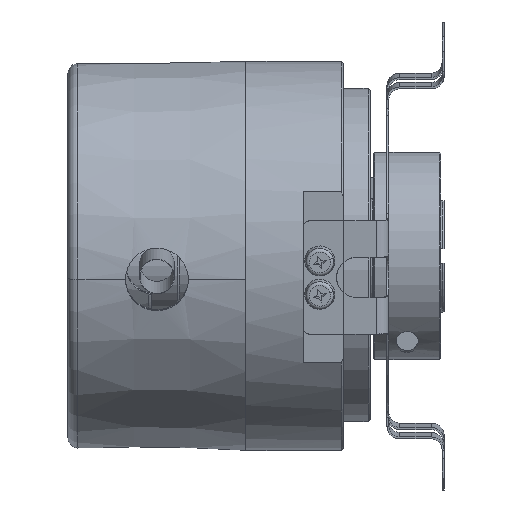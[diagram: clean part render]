
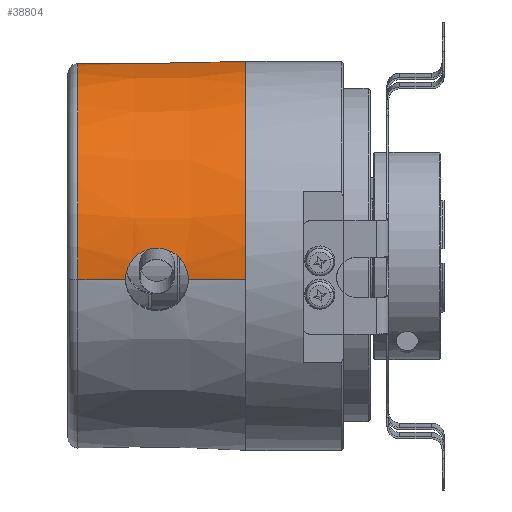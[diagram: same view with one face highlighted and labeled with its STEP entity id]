
A CAD part, front view. The second image highlights one B-rep face of the part: STEP entity #38804.
In plain terms, the highlighted conical face has half-angle 0.75 degrees and reference radius 29 mm.
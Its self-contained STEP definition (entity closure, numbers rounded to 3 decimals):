
#3315 = CARTESIAN_POINT ( 'NONE',  ( 7.5, 22.36, 18.467 ) ) ;
#7344 = VERTEX_POINT ( 'NONE', #3315 ) ;
#11219 = CARTESIAN_POINT ( 'NONE',  ( 7.5, 0., 0. ) ) ;
#11220 = DIRECTION ( 'NONE',  ( 1., 0., 0. ) ) ;
#11221 = DIRECTION ( 'NONE',  ( 0., -0.993, -0.122 ) ) ;
#13774 = LINE ( 'NONE', #13775, #36014 ) ;
#13775 = CARTESIAN_POINT ( 'NONE',  ( 7.5, -28.784, -3.534 ) ) ;
#13776 = DIRECTION ( 'NONE',  ( 1., -0.013, -0.002 ) ) ;
#13907 = CARTESIAN_POINT ( 'NONE',  ( -17.52, 0., 0. ) ) ;
#13911 = DIRECTION ( 'NONE',  ( 1., 0., 0. ) ) ;
#13912 = DIRECTION ( 'NONE',  ( 0., 0.993, 0.122 ) ) ;
#13937 = CARTESIAN_POINT ( 'NONE',  ( 7.5, 0., 0. ) ) ;
#13938 = DIRECTION ( 'NONE',  ( -1., 0., 0. ) ) ;
#13939 = DIRECTION ( 'NONE',  ( 0., 0.993, 0.122 ) ) ;
#13940 = CARTESIAN_POINT ( 'NONE',  ( 7.5, 22.36, 18.467 ) ) ;
#13947 = CARTESIAN_POINT ( 'NONE',  ( 6.5, 22.343, 18.468 ) ) ;
#13948 = CARTESIAN_POINT ( 'NONE',  ( 5.5, 22.325, 18.468 ) ) ;
#13949 = CARTESIAN_POINT ( 'NONE',  ( 4.5, 22.308, 18.469 ) ) ;
#13950 = CARTESIAN_POINT ( 'NONE',  ( 0.501, 22.238, 18.47 ) ) ;
#13951 = CARTESIAN_POINT ( 'NONE',  ( -3.498, 22.169, 18.472 ) ) ;
#13952 = CARTESIAN_POINT ( 'NONE',  ( -7.498, 22.099, 18.474 ) ) ;
#13953 = CARTESIAN_POINT ( 'NONE',  ( -10.838, 22.04, 18.476 ) ) ;
#13954 = CARTESIAN_POINT ( 'NONE',  ( -14.179, 21.982, 18.477 ) ) ;
#13955 = CARTESIAN_POINT ( 'NONE',  ( -17.52, 21.923, 18.479 ) ) ;
#13974 = CARTESIAN_POINT ( 'NONE',  ( -5.75, -28.802, 1.18 ) ) ;
#13975 = CARTESIAN_POINT ( 'NONE',  ( -5.443, -28.806, 1.179 ) ) ;
#13976 = CARTESIAN_POINT ( 'NONE',  ( -5.139, -28.812, 1.148 ) ) ;
#13977 = CARTESIAN_POINT ( 'NONE',  ( -4.537, -28.824, 1.026 ) ) ;
#13978 = CARTESIAN_POINT ( 'NONE',  ( -4.239, -28.831, 0.934 ) ) ;
#13979 = CARTESIAN_POINT ( 'NONE',  ( -3.675, -28.846, 0.697 ) ) ;
#13980 = CARTESIAN_POINT ( 'NONE',  ( -3.405, -28.853, 0.551 ) ) ;
#13981 = CARTESIAN_POINT ( 'NONE',  ( -2.892, -28.864, 0.204 ) ) ;
#13982 = CARTESIAN_POINT ( 'NONE',  ( -2.656, -28.868, 0.008 ) ) ;
#13983 = CARTESIAN_POINT ( 'NONE',  ( -2.225, -28.87, -0.426 ) ) ;
#13984 = CARTESIAN_POINT ( 'NONE',  ( -2.028, -28.869, -0.668 ) ) ;
#13985 = CARTESIAN_POINT ( 'NONE',  ( -1.688, -28.857, -1.18 ) ) ;
#13986 = CARTESIAN_POINT ( 'NONE',  ( -1.544, -28.847, -1.449 ) ) ;
#13987 = CARTESIAN_POINT ( 'NONE',  ( -1.309, -28.816, -2.015 ) ) ;
#13988 = CARTESIAN_POINT ( 'NONE',  ( -1.219, -28.795, -2.313 ) ) ;
#13989 = CARTESIAN_POINT ( 'NONE',  ( -1.099, -28.742, -2.912 ) ) ;
#13990 = CARTESIAN_POINT ( 'NONE',  ( -1.069, -28.71, -3.214 ) ) ;
#13991 = CARTESIAN_POINT ( 'NONE',  ( -1.069, -28.672, -3.521 ) ) ;
#14371 = LINE ( 'NONE', #14372, #36177 ) ;
#14372 = CARTESIAN_POINT ( 'NONE',  ( 7.5, -28.784, -3.534 ) ) ;
#14373 = DIRECTION ( 'NONE',  ( 1., -0.013, -0.002 ) ) ;
#14422 = CARTESIAN_POINT ( 'NONE',  ( -17.52, -28.459, -3.494 ) ) ;
#16927 = B_SPLINE_CURVE_WITH_KNOTS ( 'NONE', 3,
 ( #21000, #21001, #21002, #21003, #21004, #21005, #21006, #21007, #21008, #21009, #21010, #21011, #21012, #21013, #21014, #21015, #21016, #21017 ),
 .UNSPECIFIED., .F., .F.,
 ( 4, 2, 2, 2, 2, 2, 2, 2, 4 ),
 ( 0.004, 0.005, 0.006, 0.007, 0.008, 0.009, 0.01, 0.01, 0.011 ),
 .UNSPECIFIED. ) ;
#18678 = FACE_OUTER_BOUND ( 'NONE', #38139, .T. ) ;
#18681 = AXIS2_PLACEMENT_3D ( 'NONE', #11219, #11220, #11221 ) ;
#21000 = CARTESIAN_POINT ( 'NONE',  ( -10.431, -28.551, -3.506 ) ) ;
#21001 = CARTESIAN_POINT ( 'NONE',  ( -10.431, -28.588, -3.203 ) ) ;
#21002 = CARTESIAN_POINT ( 'NONE',  ( -10.401, -28.621, -2.896 ) ) ;
#21003 = CARTESIAN_POINT ( 'NONE',  ( -10.28, -28.677, -2.295 ) ) ;
#21004 = CARTESIAN_POINT ( 'NONE',  ( -10.192, -28.7, -2.004 ) ) ;
#21005 = CARTESIAN_POINT ( 'NONE',  ( -9.958, -28.737, -1.439 ) ) ;
#21006 = CARTESIAN_POINT ( 'NONE',  ( -9.811, -28.751, -1.164 ) ) ;
#21007 = CARTESIAN_POINT ( 'NONE',  ( -9.471, -28.771, -0.655 ) ) ;
#21008 = CARTESIAN_POINT ( 'NONE',  ( -9.278, -28.778, -0.419 ) ) ;
#21009 = CARTESIAN_POINT ( 'NONE',  ( -8.844, -28.787, 0.018 ) ) ;
#21010 = CARTESIAN_POINT ( 'NONE',  ( -8.605, -28.789, 0.215 ) ) ;
#21011 = CARTESIAN_POINT ( 'NONE',  ( -8.099, -28.791, 0.556 ) ) ;
#21012 = CARTESIAN_POINT ( 'NONE',  ( -7.828, -28.791, 0.702 ) ) ;
#21013 = CARTESIAN_POINT ( 'NONE',  ( -7.258, -28.792, 0.94 ) ) ;
#21014 = CARTESIAN_POINT ( 'NONE',  ( -6.966, -28.792, 1.029 ) ) ;
#21015 = CARTESIAN_POINT ( 'NONE',  ( -6.367, -28.796, 1.149 ) ) ;
#21016 = CARTESIAN_POINT ( 'NONE',  ( -6.057, -28.798, 1.18 ) ) ;
#21017 = CARTESIAN_POINT ( 'NONE',  ( -5.75, -28.802, 1.18 ) ) ;
#22021 = ORIENTED_EDGE ( 'NONE', *, *, #30591, .T. ) ;
#22022 = ORIENTED_EDGE ( 'NONE', *, *, #27367, .T. ) ;
#22023 = ORIENTED_EDGE ( 'NONE', *, *, #30722, .T. ) ;
#22024 = ORIENTED_EDGE ( 'NONE', *, *, #30610, .T. ) ;
#22025 = ORIENTED_EDGE ( 'NONE', *, *, #30600, .T. ) ;
#22026 = ORIENTED_EDGE ( 'NONE', *, *, #30554, .T. ) ;
#22027 = ORIENTED_EDGE ( 'NONE', *, *, #30603, .T. ) ;
#25460 = CONICAL_SURFACE ( 'NONE', #18681, 29., 0.013 ) ;
#25822 = B_SPLINE_CURVE_WITH_KNOTS ( 'NONE', 3,
 ( #13940, #13947, #13948, #13949, #13950, #13951, #13952, #13953, #13954, #13955 ),
 .UNSPECIFIED., .F., .F.,
 ( 4, 3, 3, 4 ),
 ( 0., 0.003, 0.015, 0.025 ),
 .UNSPECIFIED. ) ;
#25823 = B_SPLINE_CURVE_WITH_KNOTS ( 'NONE', 3,
 ( #13974, #13975, #13976, #13977, #13978, #13979, #13980, #13981, #13982, #13983, #13984, #13985, #13986, #13987, #13988, #13989, #13990, #13991 ),
 .UNSPECIFIED., .F., .F.,
 ( 4, 2, 2, 2, 2, 2, 2, 2, 4 ),
 ( 0.011, 0.012, 0.013, 0.014, 0.015, 0.016, 0.017, 0.018, 0.019 ),
 .UNSPECIFIED. ) ;
#27367 = EDGE_CURVE ( 'NONE', #35178, #35305, #16927, .T. ) ;
#30554 = EDGE_CURVE ( 'NONE', #35308, #35343, #13774, .T. ) ;
#30591 = EDGE_CURVE ( 'NONE', #35347, #30961, #33071, .T. ) ;
#30600 = EDGE_CURVE ( 'NONE', #35343, #7344, #33075, .T. ) ;
#30603 = EDGE_CURVE ( 'NONE', #7344, #35347, #25822, .T. ) ;
#30610 = EDGE_CURVE ( 'NONE', #35305, #35308, #25823, .T. ) ;
#30722 = EDGE_CURVE ( 'NONE', #30961, #35178, #14371, .T. ) ;
#30961 = VERTEX_POINT ( 'NONE', #14422 ) ;
#33071 = CIRCLE ( 'NONE', #36049, 28.672 ) ;
#33075 = CIRCLE ( 'NONE', #36060, 29. ) ;
#34109 = CARTESIAN_POINT ( 'NONE',  ( -10.431, -28.551, -3.506 ) ) ;
#34236 = CARTESIAN_POINT ( 'NONE',  ( -5.75, -28.802, 1.18 ) ) ;
#34239 = CARTESIAN_POINT ( 'NONE',  ( -1.069, -28.672, -3.521 ) ) ;
#34274 = CARTESIAN_POINT ( 'NONE',  ( 7.5, -28.784, -3.534 ) ) ;
#34278 = CARTESIAN_POINT ( 'NONE',  ( -17.52, 21.923, 18.479 ) ) ;
#35178 = VERTEX_POINT ( 'NONE', #34109 ) ;
#35305 = VERTEX_POINT ( 'NONE', #34236 ) ;
#35308 = VERTEX_POINT ( 'NONE', #34239 ) ;
#35343 = VERTEX_POINT ( 'NONE', #34274 ) ;
#35347 = VERTEX_POINT ( 'NONE', #34278 ) ;
#36014 = VECTOR ( 'NONE', #13776, 1000. ) ;
#36049 = AXIS2_PLACEMENT_3D ( 'NONE', #13907, #13911, #13912 ) ;
#36060 = AXIS2_PLACEMENT_3D ( 'NONE', #13937, #13938, #13939 ) ;
#36177 = VECTOR ( 'NONE', #14373, 1000. ) ;
#38139 = EDGE_LOOP ( 'NONE', ( #22021, #22023, #22022, #22024, #22026, #22025, #22027 ) ) ;
#38804 = ADVANCED_FACE ( 'NONE', ( #18678 ), #25460, .T. ) ;
